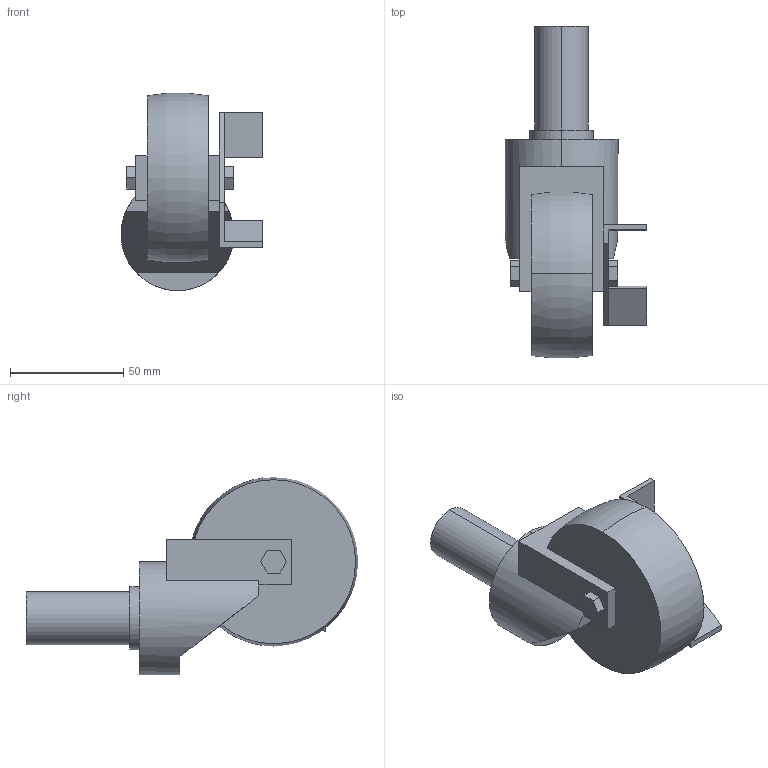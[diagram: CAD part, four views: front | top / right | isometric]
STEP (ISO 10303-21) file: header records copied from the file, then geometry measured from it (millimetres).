
FILE_DESCRIPTION (( 'STEP AP214' ), '1' );
FILE_NAME ('SGR75S CTP.step', '2024-02-15T04:36:42', ( 'catia' ), ( 'HP Inc.' ), 'SwSTEP 2.0', 'SolidWorks 2021', '' );
FILE_SCHEMA (( 'AUTOMOTIVE_DESIGN' ));
Length unit declared in the file: millimetre
Products named in the file (1): SGR75S CTP
Bounding box: 62.8 x 146.86 x 87.36 mm (x, y, z)
Volume: 216100.7 mm3; surface area: 30080.4 mm2
Topology: 1 solids, 1 shells, 56 faces, 144 edges, 94 vertices
Faces by surface type: plane 47, cylinder 6, torus 3
Entity records: 1730 total; most frequent: CARTESIAN_POINT 317, ORIENTED_EDGE 288, DIRECTION 278, EDGE_CURVE 144, VECTOR 116, LINE 116, VERTEX_POINT 94, AXIS2_PLACEMENT_3D 81
